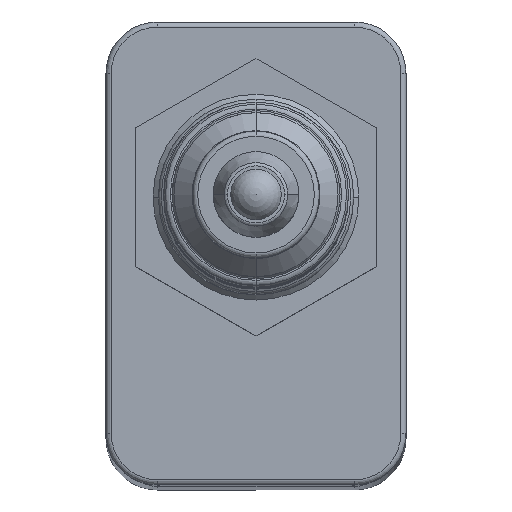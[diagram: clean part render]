
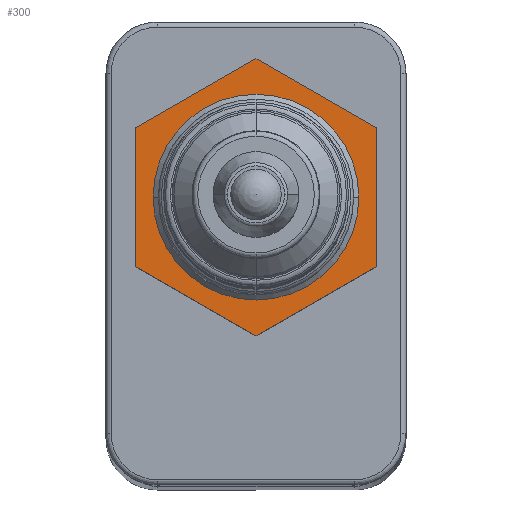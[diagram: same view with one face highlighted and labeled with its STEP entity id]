
A CAD part, top view. The second image highlights one B-rep face of the part: STEP entity #300.
In plain terms, the highlighted planar face has unit normal (0, 0, 1) as drawn and (0, -1, 0) by its records, which use the part's own axes.
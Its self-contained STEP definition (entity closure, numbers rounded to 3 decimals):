
#231 = DIRECTION ( 'NONE',  ( 0., 1., 0. ) ) ;
#300 = ADVANCED_FACE ( 'NONE', ( #855, #5848 ), #8149, .F. ) ;
#855 = FACE_BOUND ( 'NONE', #12537, .T. ) ;
#952 = DIRECTION ( 'NONE',  ( 0.866, 0., -0.5 ) ) ;
#1201 = CARTESIAN_POINT ( 'NONE',  ( -7., 0., -4.041 ) ) ;
#1319 = DIRECTION ( 'NONE',  ( 0., 0., 1. ) ) ;
#1357 = VECTOR ( 'NONE', #2748, 1000. ) ;
#1508 = EDGE_CURVE ( 'NONE', #9806, #2780, #2324, .T. ) ;
#1651 = ORIENTED_EDGE ( 'NONE', *, *, #1508, .F. ) ;
#1747 = VERTEX_POINT ( 'NONE', #2427 ) ;
#1850 = LINE ( 'NONE', #13075, #6343 ) ;
#2016 = DIRECTION ( 'NONE',  ( 0., 0., 1. ) ) ;
#2099 = ORIENTED_EDGE ( 'NONE', *, *, #9559, .F. ) ;
#2107 = ORIENTED_EDGE ( 'NONE', *, *, #5248, .F. ) ;
#2296 = CARTESIAN_POINT ( 'NONE',  ( 7., 0., -4.041 ) ) ;
#2324 = LINE ( 'NONE', #2296, #3933 ) ;
#2427 = CARTESIAN_POINT ( 'NONE',  ( 0., 0., 8.083 ) ) ;
#2714 = CARTESIAN_POINT ( 'NONE',  ( 0., 0., -5.7 ) ) ;
#2719 = VERTEX_POINT ( 'NONE', #11157 ) ;
#2748 = DIRECTION ( 'NONE',  ( -0.866, 0., 0.5 ) ) ;
#2780 = VERTEX_POINT ( 'NONE', #12289 ) ;
#2836 = AXIS2_PLACEMENT_3D ( 'NONE', #4719, #4758, #4587 ) ;
#2850 = CIRCLE ( 'NONE', #2836, 5.7 ) ;
#3265 = LINE ( 'NONE', #12145, #12073 ) ;
#3933 = VECTOR ( 'NONE', #12482, 1000. ) ;
#4284 = CARTESIAN_POINT ( 'NONE',  ( 7., 0., 4.041 ) ) ;
#4587 = DIRECTION ( 'NONE',  ( 0., 0., 1. ) ) ;
#4719 = CARTESIAN_POINT ( 'NONE',  ( 0., 0., 0. ) ) ;
#4758 = DIRECTION ( 'NONE',  ( 0., 1., 0. ) ) ;
#5202 = DIRECTION ( 'NONE',  ( 0., 0., 1. ) ) ;
#5209 = EDGE_CURVE ( 'NONE', #12484, #9806, #1850, .T. ) ;
#5248 = EDGE_CURVE ( 'NONE', #2780, #10072, #12775, .T. ) ;
#5401 = AXIS2_PLACEMENT_3D ( 'NONE', #5408, #231, #1319 ) ;
#5408 = CARTESIAN_POINT ( 'NONE',  ( 0., 0., 0. ) ) ;
#5824 = CARTESIAN_POINT ( 'NONE',  ( 0., 0., 0. ) ) ;
#5848 = FACE_OUTER_BOUND ( 'NONE', #10008, .T. ) ;
#5925 = VECTOR ( 'NONE', #8911, 1000. ) ;
#6233 = LINE ( 'NONE', #1201, #12667 ) ;
#6343 = VECTOR ( 'NONE', #13155, 1000. ) ;
#6861 = CARTESIAN_POINT ( 'NONE',  ( -7., 0., 4.041 ) ) ;
#7358 = CIRCLE ( 'NONE', #5401, 5.7 ) ;
#7384 = ORIENTED_EDGE ( 'NONE', *, *, #9859, .F. ) ;
#7884 = DIRECTION ( 'NONE',  ( 0., 1., 0. ) ) ;
#8149 = PLANE ( 'NONE',  #10351 ) ;
#8911 = DIRECTION ( 'NONE',  ( 0.866, 0., 0.5 ) ) ;
#9004 = VERTEX_POINT ( 'NONE', #2714 ) ;
#9105 = ORIENTED_EDGE ( 'NONE', *, *, #5209, .F. ) ;
#9559 = EDGE_CURVE ( 'NONE', #13276, #1747, #10399, .T. ) ;
#9806 = VERTEX_POINT ( 'NONE', #10379 ) ;
#9859 = EDGE_CURVE ( 'NONE', #10072, #13276, #6233, .T. ) ;
#10008 = EDGE_LOOP ( 'NONE', ( #9105, #13111, #2099, #7384, #2107, #1651 ) ) ;
#10029 = CARTESIAN_POINT ( 'NONE',  ( -7., 0., 4.041 ) ) ;
#10072 = VERTEX_POINT ( 'NONE', #12822 ) ;
#10208 = EDGE_CURVE ( 'NONE', #2719, #9004, #7358, .T. ) ;
#10351 = AXIS2_PLACEMENT_3D ( 'NONE', #5824, #7884, #2016 ) ;
#10379 = CARTESIAN_POINT ( 'NONE',  ( 7., 0., -4.041 ) ) ;
#10399 = LINE ( 'NONE', #10029, #5925 ) ;
#11058 = EDGE_CURVE ( 'NONE', #9004, #2719, #2850, .T. ) ;
#11157 = CARTESIAN_POINT ( 'NONE',  ( 0., 0., 5.7 ) ) ;
#11280 = ORIENTED_EDGE ( 'NONE', *, *, #11058, .T. ) ;
#12073 = VECTOR ( 'NONE', #952, 1000. ) ;
#12145 = CARTESIAN_POINT ( 'NONE',  ( 0., 0., 8.083 ) ) ;
#12162 = CARTESIAN_POINT ( 'NONE',  ( 0., 0., -8.083 ) ) ;
#12289 = CARTESIAN_POINT ( 'NONE',  ( 0., 0., -8.083 ) ) ;
#12396 = EDGE_CURVE ( 'NONE', #1747, #12484, #3265, .T. ) ;
#12482 = DIRECTION ( 'NONE',  ( -0.866, 0., -0.5 ) ) ;
#12484 = VERTEX_POINT ( 'NONE', #4284 ) ;
#12537 = EDGE_LOOP ( 'NONE', ( #12948, #11280 ) ) ;
#12667 = VECTOR ( 'NONE', #5202, 1000. ) ;
#12775 = LINE ( 'NONE', #12162, #1357 ) ;
#12822 = CARTESIAN_POINT ( 'NONE',  ( -7., 0., -4.041 ) ) ;
#12948 = ORIENTED_EDGE ( 'NONE', *, *, #10208, .T. ) ;
#13075 = CARTESIAN_POINT ( 'NONE',  ( 7., 0., 4.041 ) ) ;
#13111 = ORIENTED_EDGE ( 'NONE', *, *, #12396, .F. ) ;
#13155 = DIRECTION ( 'NONE',  ( 0., 0., -1. ) ) ;
#13276 = VERTEX_POINT ( 'NONE', #6861 ) ;
